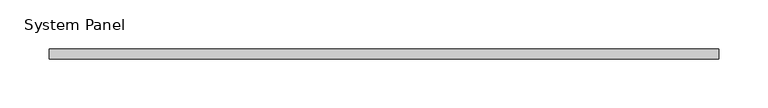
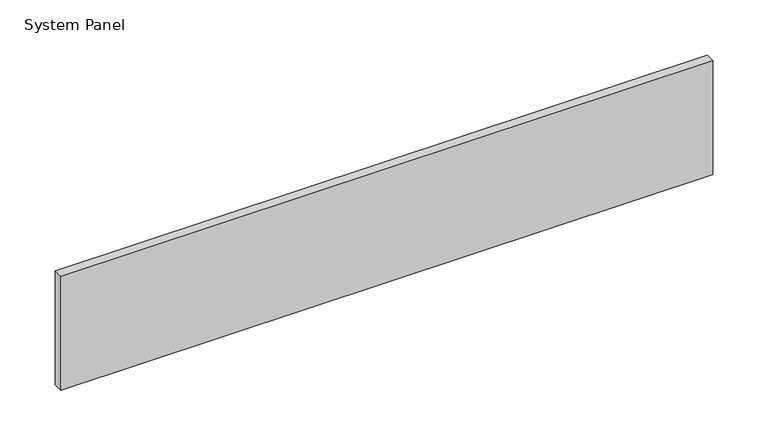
"""IFC4 building model written with IfcOpenShell, lengths in millimetres: plate geometry, System Panel : VACÍO."""

from ifc_helpers import new_model, si_unit, origin, origin_with_axes, place, context, project, spatial, polyline, outline, extrude, source, transform, mapped, element, save


def system_panel_862f567c(model_context):
    return source(origin(), model_context, "Body", "SweptSolid", [
        extrude(outline(polyline([(339.6880035, -5.0), (-339.6880035, -5.0), (-339.6880035, 5.0), (339.6880035, 5.0), (339.6880035, -5.0)])), origin_with_axes(), (0.0, 0.0, 1.0), 125.6666667),
    ])


if __name__ == "__main__":
    model = new_model("IFC4")
    model_context = context("Model", 3, world=origin())
    ifc_project = project(units=[si_unit("LENGTHUNIT", "METRE", prefix="MILLI")], contexts=[model_context])
    site = spatial("IfcSite", under=ifc_project)
    building = spatial("IfcBuilding", under=site)
    placement = place(None, origin())
    system_panel_shape = system_panel_862f567c(model_context)
    element("IfcPlate", 1, ObjectType="System Panel : VACÍO", at=placement, inside=building, context=model_context, shape_type="MappedRepresentation", body=[
        mapped(system_panel_shape, transform((0.0, 0.0, 0.0), x_axis=(1.0, 0.0, 0.0), y_axis=(0.0, 1.0, 0.0), z_axis=(0.0, 0.0, 1.0))),
    ])
    save(model, "model.ifc")
